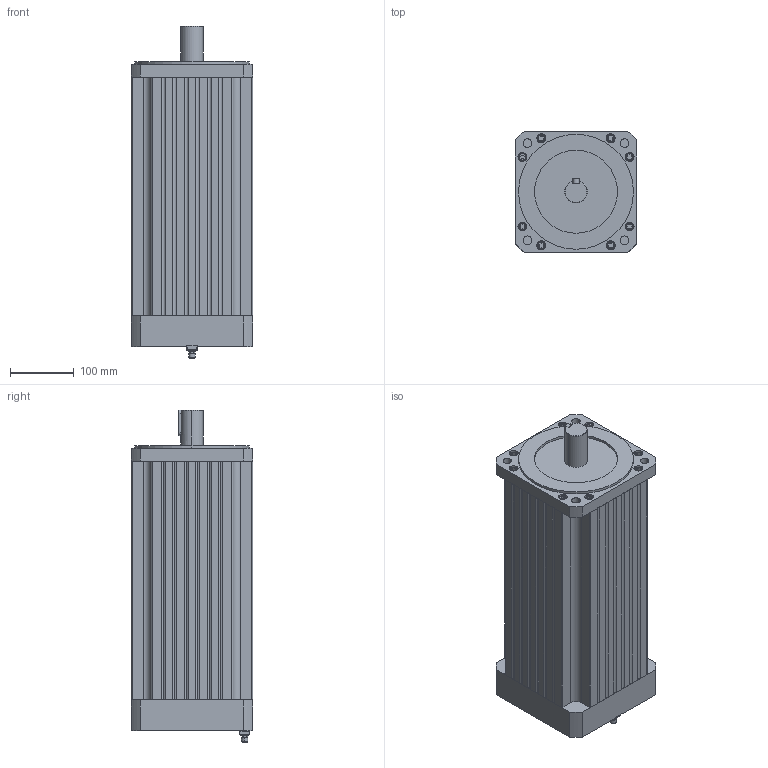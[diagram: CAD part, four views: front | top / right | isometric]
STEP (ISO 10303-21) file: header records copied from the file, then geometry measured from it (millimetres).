
FILE_DESCRIPTION (( 'STEP AP203' ), '1' );
FILE_NAME ('BTS190-55D3A2-EXD.STEP', '2023-05-24T05:45:24', ( 'Admin' ), ( '' ), 'SwSTEP 2.0', 'SolidWorks 2021', '' );
FILE_SCHEMA (( 'CONFIG_CONTROL_DESIGN' ));
Length unit declared in the file: millimetre
Products named in the file (1): BTS190-55D3A2-EXD
Bounding box: 190 x 190 x 520 mm (x, y, z)
Volume: 14522939.3 mm3; surface area: 587005.8 mm2
Topology: 15 solids, 16 shells, 516 faces, 1248 edges, 804 vertices
Faces by surface type: plane 287, cylinder 174, torus 34, cone 21
Entity records: 15048 total; most frequent: DIRECTION 2679, CARTESIAN_POINT 2595, ORIENTED_EDGE 2460, EDGE_CURVE 1230, AXIS2_PLACEMENT_3D 936, VECTOR 807, LINE 807, VERTEX_POINT 804
